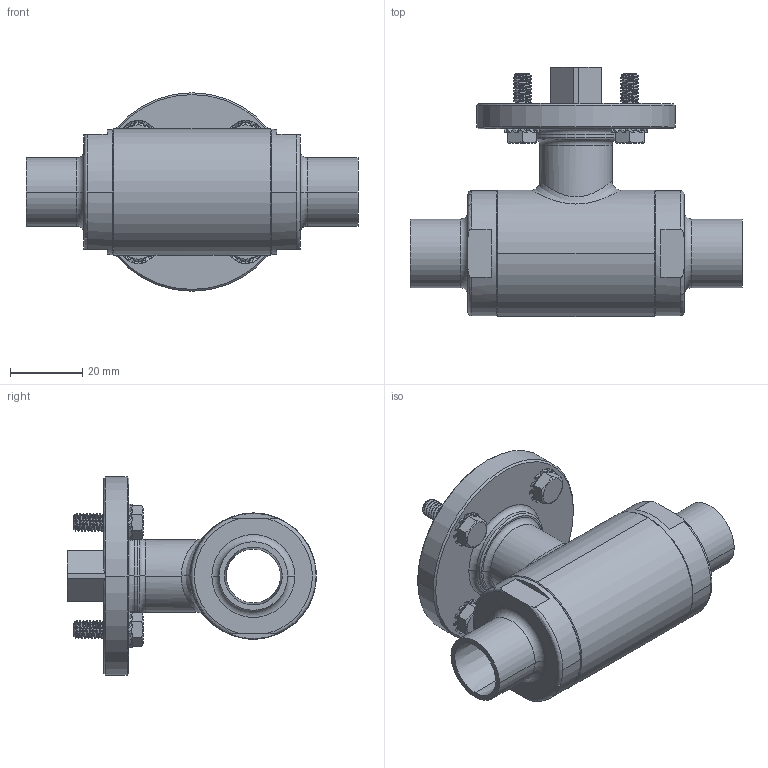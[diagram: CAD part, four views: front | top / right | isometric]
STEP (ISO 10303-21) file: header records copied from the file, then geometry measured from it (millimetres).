
FILE_DESCRIPTION((''),'2;1');
FILE_NAME('1030426B81F','2023-10-11T11:25:07',('alfio.taboni'),('CDM Tecnoconsulting'),'CREO PARAMETRIC BY PTC INC, 2020053','CREO PARAMETRIC BY PTC INC, 2020053','');
FILE_SCHEMA(('CONFIG_CONTROL_DESIGN','SHAPE_APPEARANCE_LAYERS_GROUPS'));
Products named in the file (1): 1030426B81F
Bounding box: 92 x 69 x 55 mm (x, y, z)
Volume: 68833 mm3; surface area: 32813.2 mm2
Topology: 1 solids, 1 shells, 1160 faces, 3403 edges, 2174 vertices
Faces by surface type: plane 420, cylinder 351, cone 165, bspline 88, torus 76, extrusion 56, sphere 4
Entity records: 84592 total; most frequent: CARTESIAN_POINT 45243, ORIENTED_EDGE 6790, DIRECTION 5207, PRESENTATION_STYLE_ASSIGNMENT 3396, STYLED_ITEM 3396, CURVE_STYLE 3395, EDGE_CURVE 3395, VERTEX_POINT 2174
